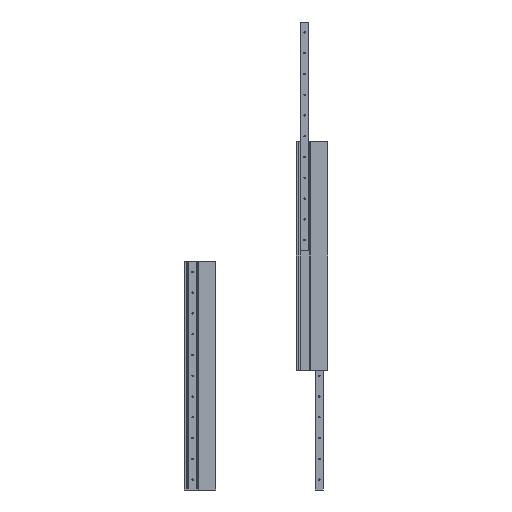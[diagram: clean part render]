
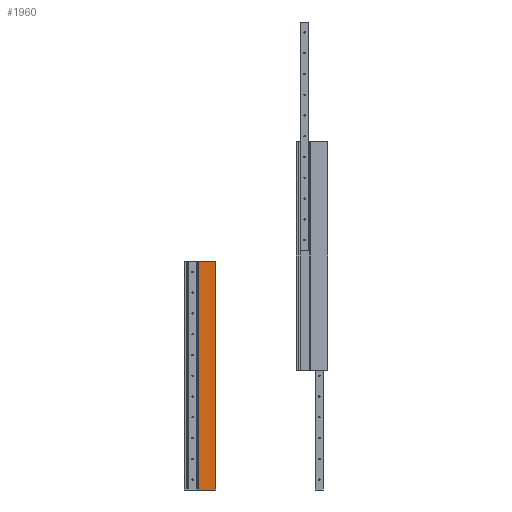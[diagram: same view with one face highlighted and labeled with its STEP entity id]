
A CAD part, front view. The second image highlights one B-rep face of the part: STEP entity #1960.
In plain terms, the highlighted planar face has unit normal (0, -1, 0) as drawn and (-1, 0, 0) by its records, which use the part's own axes.
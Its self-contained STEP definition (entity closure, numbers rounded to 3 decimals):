
#1902=CARTESIAN_POINT('',(-17.,-74.5,1100.0));
#1903=VERTEX_POINT('',#1902);
#1911=CARTESIAN_POINT('',(-17.,-74.5,0.0));
#1912=VERTEX_POINT('',#1911);
#1913=CARTESIAN_POINT('',(-17.,-74.5,0.0));
#1914=DIRECTION('',(0.0,0.0,1.0));
#1915=VECTOR('',#1914,1100.0);
#1916=LINE('',#1913,#1915);
#1917=EDGE_CURVE('',#1912,#1903,#1916,.T.);
#1930=CARTESIAN_POINT('',(-17.,-74.5,0.0));
#1931=DIRECTION('',(-1.0,0.0,0.0));
#1932=DIRECTION('',(0.0,0.0,1.0));
#1933=AXIS2_PLACEMENT_3D('',#1930,#1931,#1932);
#1934=PLANE('',#1933);
#1935=CARTESIAN_POINT('',(-17.,7.,1100.0));
#1936=VERTEX_POINT('',#1935);
#1937=CARTESIAN_POINT('',(-17.,-74.5,1100.0));
#1938=DIRECTION('',(0.0,1.0,0.0));
#1939=VECTOR('',#1938,81.5);
#1940=LINE('',#1937,#1939);
#1941=EDGE_CURVE('',#1903,#1936,#1940,.T.);
#1942=ORIENTED_EDGE('',*,*,#1941,.T.);
#1943=CARTESIAN_POINT('',(-17.,7.,0.0));
#1944=VERTEX_POINT('',#1943);
#1945=CARTESIAN_POINT('',(-17.,7.,0.0));
#1946=DIRECTION('',(0.0,0.0,1.0));
#1947=VECTOR('',#1946,1100.0);
#1948=LINE('',#1945,#1947);
#1949=EDGE_CURVE('',#1944,#1936,#1948,.T.);
#1950=ORIENTED_EDGE('',*,*,#1949,.F.);
#1951=CARTESIAN_POINT('',(-17.,7.,0.0));
#1952=DIRECTION('',(0.0,-1.0,0.0));
#1953=VECTOR('',#1952,81.5);
#1954=LINE('',#1951,#1953);
#1955=EDGE_CURVE('',#1944,#1912,#1954,.T.);
#1956=ORIENTED_EDGE('',*,*,#1955,.T.);
#1957=ORIENTED_EDGE('',*,*,#1917,.T.);
#1958=EDGE_LOOP('',(#1942,#1950,#1956,#1957));
#1959=FACE_OUTER_BOUND('',#1958,.T.);
#1960=ADVANCED_FACE('',(#1959),#1934,.T.);
